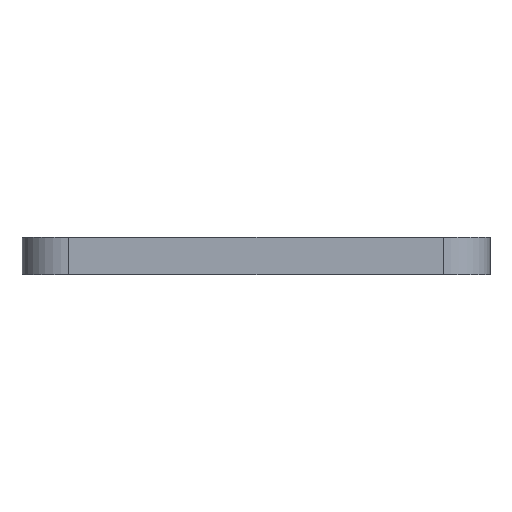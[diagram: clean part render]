
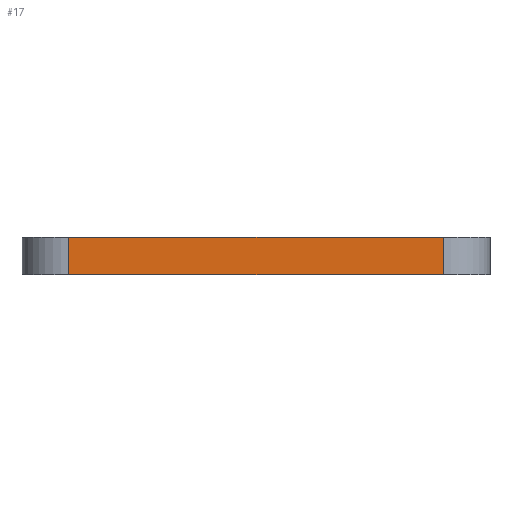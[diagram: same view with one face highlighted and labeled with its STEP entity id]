
A CAD part, left-side view. The second image highlights one B-rep face of the part: STEP entity #17.
In plain terms, the highlighted planar face has unit normal (-1, 0, 0).
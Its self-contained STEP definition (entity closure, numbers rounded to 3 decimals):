
#17 = ADVANCED_FACE('',(#18),#32,.F.);
#18 = FACE_BOUND('',#19,.F.);
#19 = EDGE_LOOP('',(#20,#55,#83,#111));
#20 = ORIENTED_EDGE('',*,*,#21,.F.);
#21 = EDGE_CURVE('',#22,#24,#26,.T.);
#22 = VERTEX_POINT('',#23);
#23 = CARTESIAN_POINT('',(-15.,-8.,1.6));
#24 = VERTEX_POINT('',#25);
#25 = CARTESIAN_POINT('',(-15.,8.,1.6));
#26 = SURFACE_CURVE('',#27,(#31,#43),.PCURVE_S1.);
#27 = LINE('',#28,#29);
#28 = CARTESIAN_POINT('',(-15.,-10.,1.6));
#29 = VECTOR('',#30,1.);
#30 = DIRECTION('',(0.,1.,0.));
#31 = PCURVE('',#32,#37);
#32 = PLANE('',#33);
#33 = AXIS2_PLACEMENT_3D('',#34,#35,#36);
#34 = CARTESIAN_POINT('',(-15.,-10.,0.));
#35 = DIRECTION('',(1.,0.,0.));
#36 = DIRECTION('',(0.,0.,1.));
#37 = DEFINITIONAL_REPRESENTATION('',(#38),#42);
#38 = LINE('',#39,#40);
#39 = CARTESIAN_POINT('',(1.6,0.));
#40 = VECTOR('',#41,1.);
#41 = DIRECTION('',(0.,-1.));
#42 = ( GEOMETRIC_REPRESENTATION_CONTEXT(2) 
PARAMETRIC_REPRESENTATION_CONTEXT() REPRESENTATION_CONTEXT('2D SPACE',''
  ) );
#43 = PCURVE('',#44,#49);
#44 = PLANE('',#45);
#45 = AXIS2_PLACEMENT_3D('',#46,#47,#48);
#46 = CARTESIAN_POINT('',(-15.,-10.,1.6));
#47 = DIRECTION('',(0.,0.,1.));
#48 = DIRECTION('',(1.,0.,0.));
#49 = DEFINITIONAL_REPRESENTATION('',(#50),#54);
#50 = LINE('',#51,#52);
#51 = CARTESIAN_POINT('',(0.,0.));
#52 = VECTOR('',#53,1.);
#53 = DIRECTION('',(0.,1.));
#54 = ( GEOMETRIC_REPRESENTATION_CONTEXT(2) 
PARAMETRIC_REPRESENTATION_CONTEXT() REPRESENTATION_CONTEXT('2D SPACE',''
  ) );
#55 = ORIENTED_EDGE('',*,*,#56,.F.);
#56 = EDGE_CURVE('',#57,#22,#59,.T.);
#57 = VERTEX_POINT('',#58);
#58 = CARTESIAN_POINT('',(-15.,-8.,0.));
#59 = SURFACE_CURVE('',#60,(#64,#71),.PCURVE_S1.);
#60 = LINE('',#61,#62);
#61 = CARTESIAN_POINT('',(-15.,-8.,0.));
#62 = VECTOR('',#63,1.);
#63 = DIRECTION('',(0.,0.,1.));
#64 = PCURVE('',#32,#65);
#65 = DEFINITIONAL_REPRESENTATION('',(#66),#70);
#66 = LINE('',#67,#68);
#67 = CARTESIAN_POINT('',(0.,-2.));
#68 = VECTOR('',#69,1.);
#69 = DIRECTION('',(1.,0.));
#70 = ( GEOMETRIC_REPRESENTATION_CONTEXT(2) 
PARAMETRIC_REPRESENTATION_CONTEXT() REPRESENTATION_CONTEXT('2D SPACE',''
  ) );
#71 = PCURVE('',#72,#77);
#72 = CYLINDRICAL_SURFACE('',#73,2.);
#73 = AXIS2_PLACEMENT_3D('',#74,#75,#76);
#74 = CARTESIAN_POINT('',(-13.,-8.,0.));
#75 = DIRECTION('',(0.,0.,1.));
#76 = DIRECTION('',(-1.,-0.,0.));
#77 = DEFINITIONAL_REPRESENTATION('',(#78),#82);
#78 = LINE('',#79,#80);
#79 = CARTESIAN_POINT('',(0.,0.));
#80 = VECTOR('',#81,1.);
#81 = DIRECTION('',(0.,1.));
#82 = ( GEOMETRIC_REPRESENTATION_CONTEXT(2) 
PARAMETRIC_REPRESENTATION_CONTEXT() REPRESENTATION_CONTEXT('2D SPACE',''
  ) );
#83 = ORIENTED_EDGE('',*,*,#84,.T.);
#84 = EDGE_CURVE('',#57,#85,#87,.T.);
#85 = VERTEX_POINT('',#86);
#86 = CARTESIAN_POINT('',(-15.,8.,0.));
#87 = SURFACE_CURVE('',#88,(#92,#99),.PCURVE_S1.);
#88 = LINE('',#89,#90);
#89 = CARTESIAN_POINT('',(-15.,-10.,0.));
#90 = VECTOR('',#91,1.);
#91 = DIRECTION('',(0.,1.,0.));
#92 = PCURVE('',#32,#93);
#93 = DEFINITIONAL_REPRESENTATION('',(#94),#98);
#94 = LINE('',#95,#96);
#95 = CARTESIAN_POINT('',(0.,0.));
#96 = VECTOR('',#97,1.);
#97 = DIRECTION('',(0.,-1.));
#98 = ( GEOMETRIC_REPRESENTATION_CONTEXT(2) 
PARAMETRIC_REPRESENTATION_CONTEXT() REPRESENTATION_CONTEXT('2D SPACE',''
  ) );
#99 = PCURVE('',#100,#105);
#100 = PLANE('',#101);
#101 = AXIS2_PLACEMENT_3D('',#102,#103,#104);
#102 = CARTESIAN_POINT('',(-15.,-10.,0.));
#103 = DIRECTION('',(0.,0.,1.));
#104 = DIRECTION('',(1.,0.,0.));
#105 = DEFINITIONAL_REPRESENTATION('',(#106),#110);
#106 = LINE('',#107,#108);
#107 = CARTESIAN_POINT('',(0.,0.));
#108 = VECTOR('',#109,1.);
#109 = DIRECTION('',(0.,1.));
#110 = ( GEOMETRIC_REPRESENTATION_CONTEXT(2) 
PARAMETRIC_REPRESENTATION_CONTEXT() REPRESENTATION_CONTEXT('2D SPACE',''
  ) );
#111 = ORIENTED_EDGE('',*,*,#112,.T.);
#112 = EDGE_CURVE('',#85,#24,#113,.T.);
#113 = SURFACE_CURVE('',#114,(#118,#125),.PCURVE_S1.);
#114 = LINE('',#115,#116);
#115 = CARTESIAN_POINT('',(-15.,8.,0.));
#116 = VECTOR('',#117,1.);
#117 = DIRECTION('',(0.,0.,1.));
#118 = PCURVE('',#32,#119);
#119 = DEFINITIONAL_REPRESENTATION('',(#120),#124);
#120 = LINE('',#121,#122);
#121 = CARTESIAN_POINT('',(0.,-18.));
#122 = VECTOR('',#123,1.);
#123 = DIRECTION('',(1.,0.));
#124 = ( GEOMETRIC_REPRESENTATION_CONTEXT(2) 
PARAMETRIC_REPRESENTATION_CONTEXT() REPRESENTATION_CONTEXT('2D SPACE',''
  ) );
#125 = PCURVE('',#126,#131);
#126 = CYLINDRICAL_SURFACE('',#127,2.);
#127 = AXIS2_PLACEMENT_3D('',#128,#129,#130);
#128 = CARTESIAN_POINT('',(-13.,8.,0.));
#129 = DIRECTION('',(0.,0.,1.));
#130 = DIRECTION('',(-1.,-0.,0.));
#131 = DEFINITIONAL_REPRESENTATION('',(#132),#136);
#132 = LINE('',#133,#134);
#133 = CARTESIAN_POINT('',(-0.,0.));
#134 = VECTOR('',#135,1.);
#135 = DIRECTION('',(-0.,1.));
#136 = ( GEOMETRIC_REPRESENTATION_CONTEXT(2) 
PARAMETRIC_REPRESENTATION_CONTEXT() REPRESENTATION_CONTEXT('2D SPACE',''
  ) );
